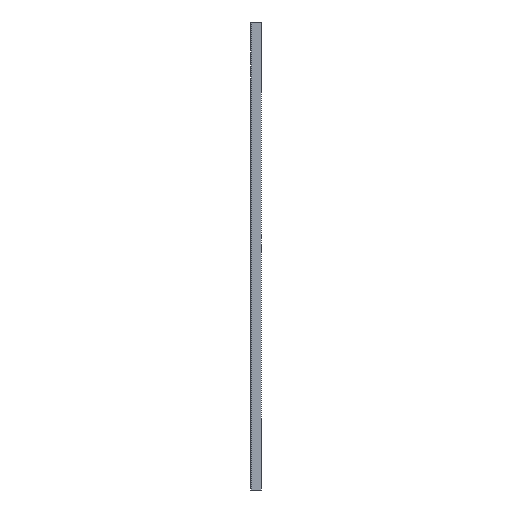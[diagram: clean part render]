
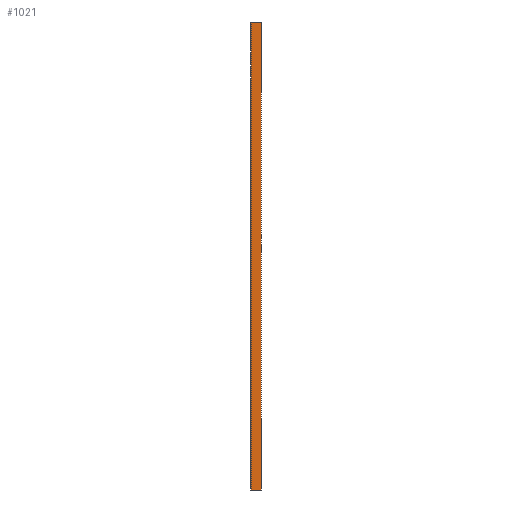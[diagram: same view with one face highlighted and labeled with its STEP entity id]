
A CAD part, left-side view. The second image highlights one B-rep face of the part: STEP entity #1021.
In plain terms, the highlighted planar face has unit normal (-1, 0, 0).
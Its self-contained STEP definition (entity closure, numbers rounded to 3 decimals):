
#32 = VECTOR ( 'NONE', #384, 1000. ) ;
#50 = VERTEX_POINT ( 'NONE', #152 ) ;
#56 = CARTESIAN_POINT ( 'NONE',  ( -705.5, -20., 30. ) ) ;
#81 = ORIENTED_EDGE ( 'NONE', *, *, #1093, .T. ) ;
#148 = DIRECTION ( 'NONE',  ( 0., 1., 0. ) ) ;
#150 = DIRECTION ( 'NONE',  ( 0., 0., 1. ) ) ;
#152 = CARTESIAN_POINT ( 'NONE',  ( -705.5, -20., -834. ) ) ;
#221 = DIRECTION ( 'NONE',  ( 0., 0., 1. ) ) ;
#232 = CARTESIAN_POINT ( 'NONE',  ( -705.5, -20., -834. ) ) ;
#319 = FACE_OUTER_BOUND ( 'NONE', #581, .T. ) ;
#384 = DIRECTION ( 'NONE',  ( 0., 0., 1. ) ) ;
#400 = DIRECTION ( 'NONE',  ( -1., 0., 0. ) ) ;
#458 = AXIS2_PLACEMENT_3D ( 'NONE', #232, #400, #221 ) ;
#463 = ORIENTED_EDGE ( 'NONE', *, *, #564, .F. ) ;
#464 = DIRECTION ( 'NONE',  ( 0., 1., 0. ) ) ;
#473 = PLANE ( 'NONE',  #458 ) ;
#478 = CARTESIAN_POINT ( 'NONE',  ( -705.5, -20., -834. ) ) ;
#512 = EDGE_CURVE ( 'NONE', #944, #737, #887, .T. ) ;
#549 = CARTESIAN_POINT ( 'NONE',  ( -705.5, -20., -834. ) ) ;
#564 = EDGE_CURVE ( 'NONE', #50, #944, #998, .T. ) ;
#580 = CARTESIAN_POINT ( 'NONE',  ( -705.5, -20., 30. ) ) ;
#581 = EDGE_LOOP ( 'NONE', ( #689, #463, #81, #628 ) ) ;
#603 = CARTESIAN_POINT ( 'NONE',  ( -705.5, 0., 30. ) ) ;
#628 = ORIENTED_EDGE ( 'NONE', *, *, #698, .T. ) ;
#678 = VECTOR ( 'NONE', #150, 1000. ) ;
#689 = ORIENTED_EDGE ( 'NONE', *, *, #512, .F. ) ;
#698 = EDGE_CURVE ( 'NONE', #1087, #737, #1012, .T. ) ;
#737 = VERTEX_POINT ( 'NONE', #603 ) ;
#845 = VECTOR ( 'NONE', #148, 1000. ) ;
#887 = LINE ( 'NONE', #1067, #32 ) ;
#925 = LINE ( 'NONE', #478, #678 ) ;
#944 = VERTEX_POINT ( 'NONE', #974 ) ;
#974 = CARTESIAN_POINT ( 'NONE',  ( -705.5, 0., -834. ) ) ;
#998 = LINE ( 'NONE', #549, #1109 ) ;
#1012 = LINE ( 'NONE', #580, #845 ) ;
#1021 = ADVANCED_FACE ( 'NONE', ( #319 ), #473, .T. ) ;
#1067 = CARTESIAN_POINT ( 'NONE',  ( -705.5, 0., -834. ) ) ;
#1087 = VERTEX_POINT ( 'NONE', #56 ) ;
#1093 = EDGE_CURVE ( 'NONE', #50, #1087, #925, .T. ) ;
#1109 = VECTOR ( 'NONE', #464, 1000. ) ;
